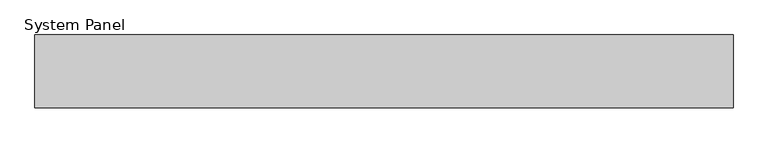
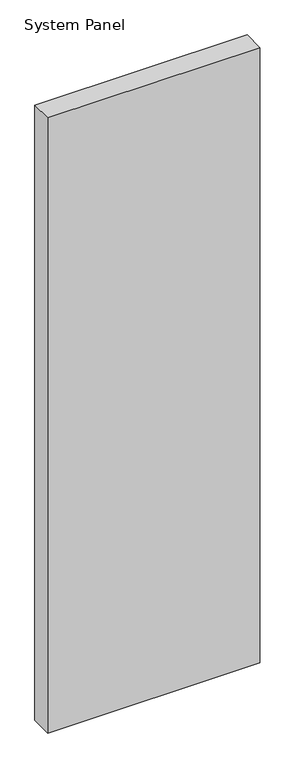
"""IFC4 building model written with IfcOpenShell, lengths in millimetres: plate geometry, System Panel : Equitilt_125mm_Plain_Surfmist."""

from ifc_helpers import new_model, si_unit, origin, origin_with_axes, place, context, project, spatial, polyline, outline, extrude, source, transform, mapped, element, save


def system_panel_aa59b06d(model_context):
    return source(origin(), model_context, "Body", "SweptSolid", [
        extrude(outline(polyline([(600.0, -125.0), (-600.0, -125.0), (-600.0, 0.0), (600.0, 0.0), (600.0, -125.0)])), origin_with_axes(), (0.0, 0.0, 1.0), 3679.9704237),
    ])


if __name__ == "__main__":
    model = new_model("IFC4")
    model_context = context("Model", 3, world=origin())
    ifc_project = project(units=[si_unit("LENGTHUNIT", "METRE", prefix="MILLI")], contexts=[model_context])
    site = spatial("IfcSite", under=ifc_project)
    building = spatial("IfcBuilding", under=site)
    placement = place(None, origin())
    system_panel_shape = system_panel_aa59b06d(model_context)
    element("IfcPlate", 1, ObjectType="System Panel : Equitilt_125mm_Plain_Surfmist", at=placement, inside=building, context=model_context, shape_type="MappedRepresentation", body=[
        mapped(system_panel_shape, transform((0.0, 0.0, 0.0), x_axis=(1.0, 0.0, 0.0), y_axis=(0.0, 1.0, 0.0), z_axis=(0.0, 0.0, 1.0))),
    ])
    save(model, "model.ifc")
